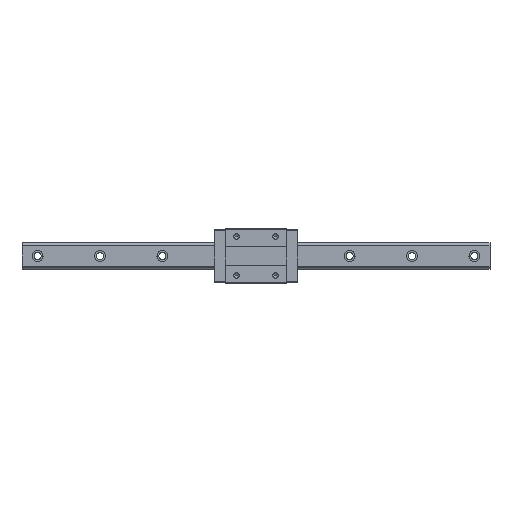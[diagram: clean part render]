
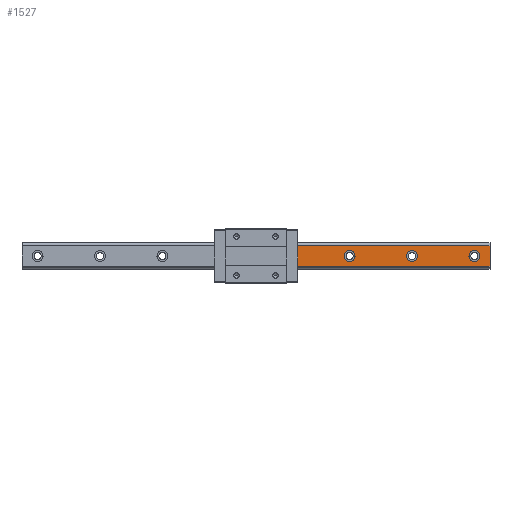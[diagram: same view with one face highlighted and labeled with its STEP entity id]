
A CAD part, top view. The second image highlights one B-rep face of the part: STEP entity #1527.
In plain terms, the highlighted planar face has unit normal (0, 0, 1).
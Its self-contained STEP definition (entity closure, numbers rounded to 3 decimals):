
#76 = LINE ( 'NONE', #3206, #4408 ) ;
#103 = DIRECTION ( 'NONE',  ( 0., 0., -1. ) ) ;
#134 = CIRCLE ( 'NONE', #1680, 7. ) ;
#177 = EDGE_CURVE ( 'NONE', #4059, #2166, #440, .T. ) ;
#209 = LINE ( 'NONE', #4058, #740 ) ;
#332 = FACE_BOUND ( 'NONE', #4385, .T. ) ;
#346 = CARTESIAN_POINT ( 'NONE',  ( 300., -13.38, 26. ) ) ;
#440 = CIRCLE ( 'NONE', #3993, 7. ) ;
#443 = DIRECTION ( 'NONE',  ( -1., 0., 0. ) ) ;
#484 = VERTEX_POINT ( 'NONE', #2232 ) ;
#740 = VECTOR ( 'NONE', #3622, 1000. ) ;
#759 = CARTESIAN_POINT ( 'NONE',  ( 300., 0., 26. ) ) ;
#805 = ORIENTED_EDGE ( 'NONE', *, *, #4886, .T. ) ;
#907 = CIRCLE ( 'NONE', #1542, 7. ) ;
#914 = VERTEX_POINT ( 'NONE', #2222 ) ;
#941 = EDGE_CURVE ( 'NONE', #914, #3163, #1339, .T. ) ;
#976 = DIRECTION ( 'NONE',  ( 0., 0., -1. ) ) ;
#1105 = CIRCLE ( 'NONE', #3928, 7. ) ;
#1118 = DIRECTION ( 'NONE',  ( -1., 0., 0. ) ) ;
#1120 = EDGE_CURVE ( 'NONE', #484, #4856, #907, .T. ) ;
#1133 = DIRECTION ( 'NONE',  ( 0., 0., -1. ) ) ;
#1261 = ORIENTED_EDGE ( 'NONE', *, *, #1120, .T. ) ;
#1339 = LINE ( 'NONE', #4879, #1818 ) ;
#1464 = AXIS2_PLACEMENT_3D ( 'NONE', #4299, #5468, #443 ) ;
#1525 = PLANE ( 'NONE',  #3177 ) ;
#1527 = ADVANCED_FACE ( 'NONE', ( #332, #5443, #2495, #1610 ), #1525, .F. ) ;
#1542 = AXIS2_PLACEMENT_3D ( 'NONE', #2891, #1133, #3721 ) ;
#1596 = CARTESIAN_POINT ( 'NONE',  ( 53.7, 13.38, 26. ) ) ;
#1609 = EDGE_LOOP ( 'NONE', ( #3090, #4453 ) ) ;
#1610 = FACE_OUTER_BOUND ( 'NONE', #3246, .T. ) ;
#1680 = AXIS2_PLACEMENT_3D ( 'NONE', #4161, #5116, #1118 ) ;
#1707 = DIRECTION ( 'NONE',  ( -1., 0., 0. ) ) ;
#1818 = VECTOR ( 'NONE', #4822, 1000. ) ;
#1857 = ORIENTED_EDGE ( 'NONE', *, *, #941, .F. ) ;
#2011 = DIRECTION ( 'NONE',  ( 0., 0., -1. ) ) ;
#2166 = VERTEX_POINT ( 'NONE', #3104 ) ;
#2222 = CARTESIAN_POINT ( 'NONE',  ( 300., 13.38, 26. ) ) ;
#2232 = CARTESIAN_POINT ( 'NONE',  ( 127., 0., 26. ) ) ;
#2253 = CARTESIAN_POINT ( 'NONE',  ( 53.7, -13.38, 26. ) ) ;
#2379 = CIRCLE ( 'NONE', #1464, 7. ) ;
#2416 = DIRECTION ( 'NONE',  ( 0., 1., 0. ) ) ;
#2495 = FACE_BOUND ( 'NONE', #1609, .T. ) ;
#2602 = CARTESIAN_POINT ( 'NONE',  ( 287., 0., 26. ) ) ;
#2613 = ORIENTED_EDGE ( 'NONE', *, *, #4854, .T. ) ;
#2669 = ORIENTED_EDGE ( 'NONE', *, *, #4172, .T. ) ;
#2702 = LINE ( 'NONE', #3526, #5112 ) ;
#2763 = CIRCLE ( 'NONE', #2848, 7. ) ;
#2833 = DIRECTION ( 'NONE',  ( 0., -1., 0. ) ) ;
#2848 = AXIS2_PLACEMENT_3D ( 'NONE', #3571, #103, #3119 ) ;
#2891 = CARTESIAN_POINT ( 'NONE',  ( 120., 0., 26. ) ) ;
#2899 = VERTEX_POINT ( 'NONE', #5270 ) ;
#3090 = ORIENTED_EDGE ( 'NONE', *, *, #177, .T. ) ;
#3104 = CARTESIAN_POINT ( 'NONE',  ( 273., 0., 26. ) ) ;
#3119 = DIRECTION ( 'NONE',  ( -1., 0., 0. ) ) ;
#3163 = VERTEX_POINT ( 'NONE', #346 ) ;
#3177 = AXIS2_PLACEMENT_3D ( 'NONE', #759, #2011, #2833 ) ;
#3197 = DIRECTION ( 'NONE',  ( -1., 0., 0. ) ) ;
#3206 = CARTESIAN_POINT ( 'NONE',  ( 300., 13.38, 26. ) ) ;
#3222 = CARTESIAN_POINT ( 'NONE',  ( 280., 0., 26. ) ) ;
#3246 = EDGE_LOOP ( 'NONE', ( #2613, #4084, #2669, #1857 ) ) ;
#3305 = VERTEX_POINT ( 'NONE', #2253 ) ;
#3336 = EDGE_CURVE ( 'NONE', #3305, #5236, #2702, .T. ) ;
#3526 = CARTESIAN_POINT ( 'NONE',  ( 53.7, -13.38, 26. ) ) ;
#3571 = CARTESIAN_POINT ( 'NONE',  ( 200., 0., 26. ) ) ;
#3592 = EDGE_CURVE ( 'NONE', #4856, #484, #2379, .T. ) ;
#3622 = DIRECTION ( 'NONE',  ( 1., 0., 0. ) ) ;
#3712 = EDGE_LOOP ( 'NONE', ( #4501, #805 ) ) ;
#3721 = DIRECTION ( 'NONE',  ( -1., 0., 0. ) ) ;
#3928 = AXIS2_PLACEMENT_3D ( 'NONE', #3222, #4140, #3197 ) ;
#3993 = AXIS2_PLACEMENT_3D ( 'NONE', #3994, #976, #5345 ) ;
#3994 = CARTESIAN_POINT ( 'NONE',  ( 280., 0., 26. ) ) ;
#4006 = CARTESIAN_POINT ( 'NONE',  ( 113., 0., 26. ) ) ;
#4058 = CARTESIAN_POINT ( 'NONE',  ( 300., -13.38, 26. ) ) ;
#4059 = VERTEX_POINT ( 'NONE', #2602 ) ;
#4069 = VERTEX_POINT ( 'NONE', #5266 ) ;
#4084 = ORIENTED_EDGE ( 'NONE', *, *, #3336, .F. ) ;
#4117 = EDGE_CURVE ( 'NONE', #2166, #4059, #1105, .T. ) ;
#4140 = DIRECTION ( 'NONE',  ( 0., 0., -1. ) ) ;
#4161 = CARTESIAN_POINT ( 'NONE',  ( 200., 0., 26. ) ) ;
#4172 = EDGE_CURVE ( 'NONE', #3305, #3163, #209, .T. ) ;
#4299 = CARTESIAN_POINT ( 'NONE',  ( 120., 0., 26. ) ) ;
#4330 = ORIENTED_EDGE ( 'NONE', *, *, #3592, .T. ) ;
#4385 = EDGE_LOOP ( 'NONE', ( #1261, #4330 ) ) ;
#4408 = VECTOR ( 'NONE', #1707, 1000. ) ;
#4453 = ORIENTED_EDGE ( 'NONE', *, *, #4117, .T. ) ;
#4501 = ORIENTED_EDGE ( 'NONE', *, *, #5212, .T. ) ;
#4822 = DIRECTION ( 'NONE',  ( 0., -1., 0. ) ) ;
#4854 = EDGE_CURVE ( 'NONE', #914, #5236, #76, .T. ) ;
#4856 = VERTEX_POINT ( 'NONE', #4006 ) ;
#4879 = CARTESIAN_POINT ( 'NONE',  ( 300., 13.6, 26. ) ) ;
#4886 = EDGE_CURVE ( 'NONE', #2899, #4069, #2763, .T. ) ;
#5112 = VECTOR ( 'NONE', #2416, 1000. ) ;
#5116 = DIRECTION ( 'NONE',  ( 0., 0., -1. ) ) ;
#5212 = EDGE_CURVE ( 'NONE', #4069, #2899, #134, .T. ) ;
#5236 = VERTEX_POINT ( 'NONE', #1596 ) ;
#5266 = CARTESIAN_POINT ( 'NONE',  ( 207., 0., 26. ) ) ;
#5270 = CARTESIAN_POINT ( 'NONE',  ( 193., 0., 26. ) ) ;
#5345 = DIRECTION ( 'NONE',  ( -1., 0., 0. ) ) ;
#5443 = FACE_BOUND ( 'NONE', #3712, .T. ) ;
#5468 = DIRECTION ( 'NONE',  ( 0., 0., -1. ) ) ;
